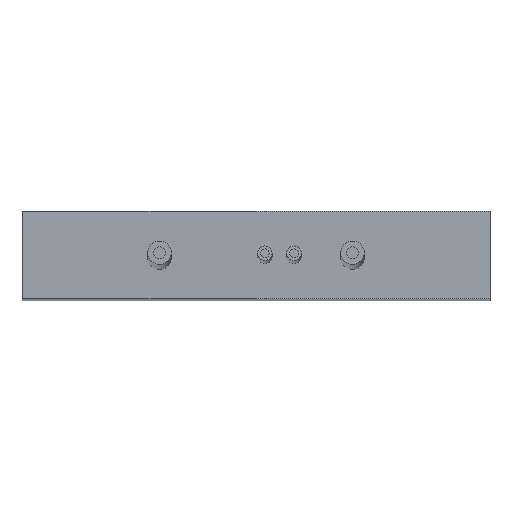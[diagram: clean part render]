
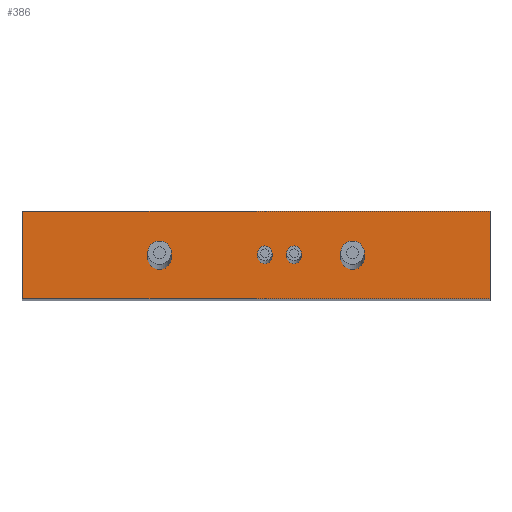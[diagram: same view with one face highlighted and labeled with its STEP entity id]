
A CAD part, top view. The second image highlights one B-rep face of the part: STEP entity #386.
In plain terms, the highlighted planar face has unit normal (0, 0, 1).
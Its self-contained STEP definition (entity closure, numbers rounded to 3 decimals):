
#13=LINE($,#608,#25);
#16=LINE($,#622,#28);
#19=LINE($,#628,#31);
#22=LINE($,#641,#34);
#25=VECTOR($,#509,15.);
#28=VECTOR($,#522,80.);
#31=VECTOR($,#527,15.);
#34=VECTOR($,#540,80.);
#49=PLANE($,#439);
#80=FACE_BOUND($,#153,.T.);
#81=FACE_BOUND($,#154,.T.);
#82=FACE_BOUND($,#155,.T.);
#83=FACE_BOUND($,#156,.T.);
#84=FACE_BOUND($,#157,.T.);
#153=EDGE_LOOP($,(#314));
#154=EDGE_LOOP($,(#315));
#155=EDGE_LOOP($,(#316));
#156=EDGE_LOOP($,(#317));
#157=EDGE_LOOP($,(#318,#319,#320,#321));
#161=CIRCLE($,#396,1.25);
#165=CIRCLE($,#404,1.25);
#169=CIRCLE($,#412,2.);
#173=CIRCLE($,#420,2.);
#185=VERTEX_POINT($,#564);
#189=VERTEX_POINT($,#576);
#193=VERTEX_POINT($,#588);
#197=VERTEX_POINT($,#600);
#198=VERTEX_POINT($,#604);
#200=VERTEX_POINT($,#607);
#206=VERTEX_POINT($,#621);
#208=VERTEX_POINT($,#627);
#217=EDGE_CURVE($,#185,#185,#161,.T.);
#221=EDGE_CURVE($,#189,#189,#165,.T.);
#225=EDGE_CURVE($,#193,#193,#169,.T.);
#229=EDGE_CURVE($,#197,#197,#173,.T.);
#231=EDGE_CURVE($,#200,#198,#13,.T.);
#238=EDGE_CURVE($,#206,#200,#16,.T.);
#241=EDGE_CURVE($,#208,#206,#19,.T.);
#248=EDGE_CURVE($,#198,#208,#22,.T.);
#314=ORIENTED_EDGE($,*,*,#217,.T.);
#315=ORIENTED_EDGE($,*,*,#221,.T.);
#316=ORIENTED_EDGE($,*,*,#225,.T.);
#317=ORIENTED_EDGE($,*,*,#229,.T.);
#318=ORIENTED_EDGE($,*,*,#248,.T.);
#319=ORIENTED_EDGE($,*,*,#241,.T.);
#320=ORIENTED_EDGE($,*,*,#238,.T.);
#321=ORIENTED_EDGE($,*,*,#231,.T.);
#386=ADVANCED_FACE($,(#80,#81,#82,#83,#84),#49,.T.);
#396=AXIS2_PLACEMENT_3D($,#565,#454,#455);
#404=AXIS2_PLACEMENT_3D($,#577,#470,#471);
#412=AXIS2_PLACEMENT_3D($,#589,#486,#487);
#420=AXIS2_PLACEMENT_3D($,#601,#502,#503);
#439=AXIS2_PLACEMENT_3D($,#648,#552,#553);
#454=DIRECTION('center_axis',(0.,0.,
-1.));
#455=DIRECTION('ref_axis',(-1.,0.,0.));
#470=DIRECTION('center_axis',(0.,0.,
-1.));
#471=DIRECTION('ref_axis',(-1.,0.,0.));
#486=DIRECTION('center_axis',(0.,0.,
-1.));
#487=DIRECTION('ref_axis',(-0.66,-0.751,0.));
#502=DIRECTION('center_axis',(0.,0.,
-1.));
#503=DIRECTION('ref_axis',(-0.66,-0.751,0.));
#509=DIRECTION($,(0.,1.,0.));
#522=DIRECTION($,(1.,0.,0.));
#527=DIRECTION($,(0.,-1.,0.));
#540=DIRECTION($,(-1.,0.,0.));
#552=DIRECTION('center_axis',(0.,0.,
1.));
#553=DIRECTION('ref_axis',(1.,0.,0.));
#564=CARTESIAN_POINT('',(55.576,13.328,134.404));
#565=CARTESIAN_POINT('Origin',(54.326,13.328,134.404));
#576=CARTESIAN_POINT('',(60.576,13.328,134.404));
#577=CARTESIAN_POINT('Origin',(59.326,13.328,134.404));
#588=CARTESIAN_POINT('',(37.644,14.58,134.404));
#589=CARTESIAN_POINT('Origin',(36.323,13.078,134.404));
#600=CARTESIAN_POINT('',(70.644,14.58,134.404));
#601=CARTESIAN_POINT('Origin',(69.323,13.078,134.404));
#604=CARTESIAN_POINT('',(92.823,21.078,134.404));
#607=CARTESIAN_POINT('',(92.823,6.078,134.404));
#608=CARTESIAN_POINT($,(92.823,21.078,134.404));
#621=CARTESIAN_POINT('',(12.823,6.078,134.404));
#622=CARTESIAN_POINT($,(92.823,6.078,134.404));
#627=CARTESIAN_POINT('',(12.823,21.078,134.404));
#628=CARTESIAN_POINT($,(12.823,6.078,134.404));
#641=CARTESIAN_POINT($,(12.823,21.078,134.404));
#648=CARTESIAN_POINT('Origin',(52.823,13.578,134.404));
